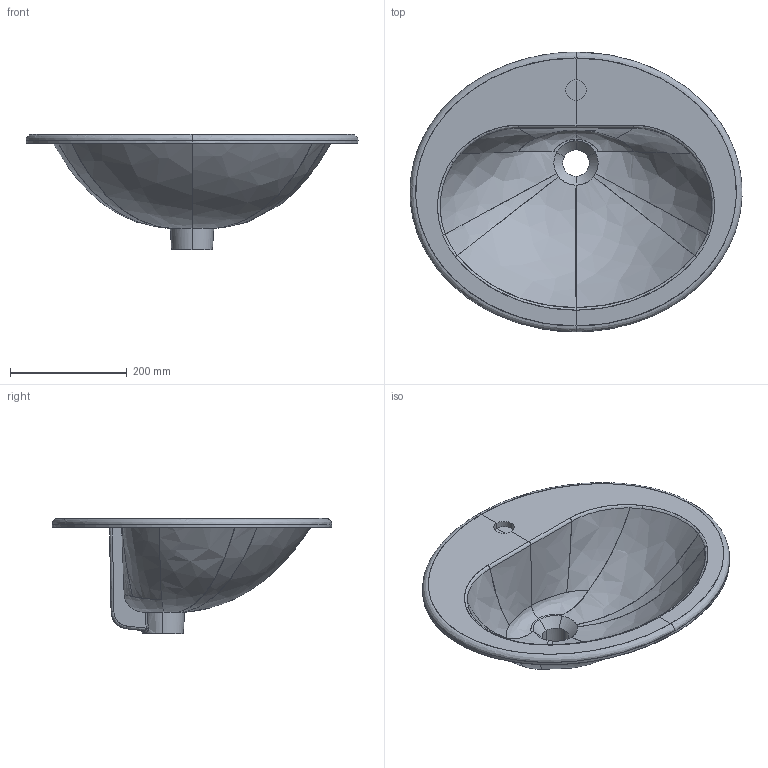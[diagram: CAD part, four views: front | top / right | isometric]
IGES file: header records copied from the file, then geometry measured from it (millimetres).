
Start section: START RECORD GO HERE.
Global section: file name: ART 6000 Eloise mini.igs; native system: DASSAULT SYSTEMES CATIA V5 R19 - www.3ds.com; preprocessor: CATIA Version 5 Release 19 SP 5 ; author: Luca; organization: DESKTOP-V7SON24; date: 20201026.104616; units: millimetre
Bounding box: 569.74 x 480 x 197.4 mm (x, y, z)
Surface area: 635446.7 mm2 (no closed solid volume)
Topology: 0 solids, 0 shells, 96 faces, 544 edges, 538 vertices
Faces by surface type: bspline 62, revolution 18, plane 12, extrusion 4
